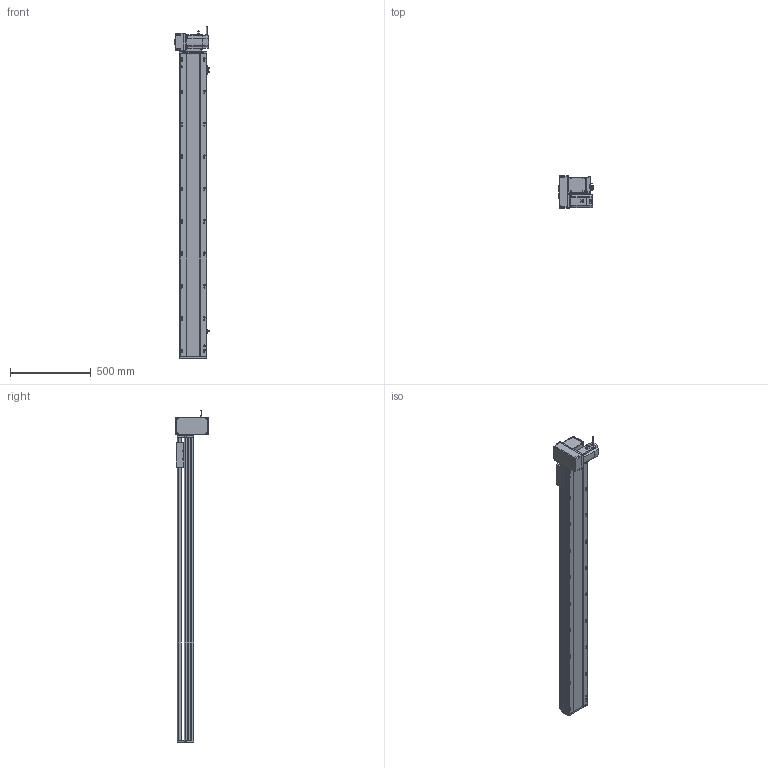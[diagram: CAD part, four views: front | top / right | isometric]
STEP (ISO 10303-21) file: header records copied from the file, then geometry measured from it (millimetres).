
FILE_DESCRIPTION (( 'STEP AP214' ), '1' );
FILE_NAME ('RTB17S-XX-1600-LM-M75-C4.STEP', '2025-12-12T00:41:58', ( '' ), ( '' ), 'SwSTEP 2.0', 'SolidWorks 2018', '' );
FILE_SCHEMA (( 'AUTOMOTIVE_DESIGN' ));
Length unit declared in the file: millimetre
Products named in the file (15): RTB17S-XX-1600-LM-M75-C4; RTB17S-L-001-耜醱啣^RTB17S-XX-XX-LM-M75-C4; RTB17-R-011菁釱^RTB17S-XX-XX-LM-M75-C4; RTB22S-GY-017P^RTB17S-LM-々湍釱蚾饜-750W_RTB17S-XX-XX-LM-M75-C4; RTB17S-L-007奻裔^RTB17S-XX-XX-LM-M75-C4; RTB22S-GY-018P^RTB17S-LM-々湍釱蚾饜-750W_RTB17S-XX-XX-LM-M75-C4; RTH13-BL-012覜茼え俋离^RTB17S-賑釱_RTB17S-XX-XX-LM-M75-C4; RTB22S-GY-008-M75--萇儂啣^RTB17S-LM-々湍釱蚾饜-750W_RTB17S-XX-XX-LM-M75-C4; RTB22S-GY-005P^RTB17S-LM-々湍釱蚾饜-750W_RTB17S-XX-XX-LM-M75-C4; RTB17S-L-004-賑釱^RTB17S-賑釱_RTB17S-XX-XX-LM-M75-C4; RTB17S-L-014-T20-P75--々湍釱^RTB17S-LM-々湍釱蚾饜-750W_RTB17S-XX-XX-LM-M75-C4; EE672^RTB17S-XX-XX-LM-M75-C4; RTB17S-賑釱^RTB17S-XX-XX-LM-M75-C4; RTB17S-LM-々湍釱蚾饜-750W^RTB17S-XX-XX-LM-M75-C4; 750W萇儂^RTB17S-XX-XX-LM-M75-C4
Assembly tree (17 placements, depth 3):
  RTB17S-XX-1600-LM-M75-C4
    RTB17-R-011菁釱^RTB17S-XX-XX-LM-M75-C4
    EE672^RTB17S-XX-XX-LM-M75-C4  x3
    RTB17S-L-001-耜醱啣^RTB17S-XX-XX-LM-M75-C4
    RTB17S-賑釱^RTB17S-XX-XX-LM-M75-C4
      RTB17S-L-004-賑釱^RTB17S-賑釱_RTB17S-XX-XX-LM-M75-C4
      RTH13-BL-012覜茼え俋离^RTB17S-賑釱_RTB17S-XX-XX-LM-M75-C4
    RTB17S-L-007奻裔^RTB17S-XX-XX-LM-M75-C4
    750W萇儂^RTB17S-XX-XX-LM-M75-C4
    RTB17S-LM-々湍釱蚾饜-750W^RTB17S-XX-XX-LM-M75-C4
      RTB17S-L-014-T20-P75--々湍釱^RTB17S-LM-々湍釱蚾饜-750W_RTB17S-XX-XX-LM-M75-C4
      RTB22S-GY-005P^RTB17S-LM-々湍釱蚾饜-750W_RTB17S-XX-XX-LM-M75-C4
      RTB22S-GY-017P^RTB17S-LM-々湍釱蚾饜-750W_RTB17S-XX-XX-LM-M75-C4  x2
      RTB22S-GY-008-M75--萇儂啣^RTB17S-LM-々湍釱蚾饜-750W_RTB17S-XX-XX-LM-M75-C4
      RTB22S-GY-018P^RTB17S-LM-々湍釱蚾饜-750W_RTB17S-XX-XX-LM-M75-C4
Bounding box: 210.4 x 200 x 2052.2 mm (x, y, z)
Volume: 15954455.5 mm3; surface area: 2807017.3 mm2
Topology: 17 solids, 17 shells, 2137 faces, 5944 edges, 3842 vertices
Faces by surface type: plane 976, cylinder 745, bspline 294, cone 110, sphere 8, torus 4
Entity records: 60406 total; most frequent: CARTESIAN_POINT 17808, ORIENTED_EDGE 8732, DIRECTION 8132, EDGE_CURVE 4366, AXIS2_PLACEMENT_3D 2862, VERTEX_POINT 2846, LINE 2408, VECTOR 2408
